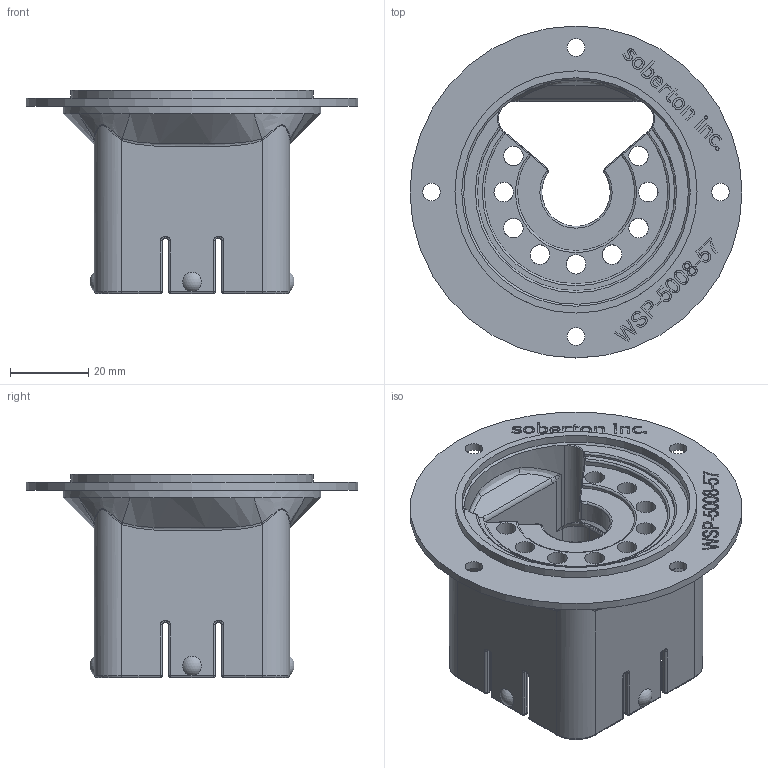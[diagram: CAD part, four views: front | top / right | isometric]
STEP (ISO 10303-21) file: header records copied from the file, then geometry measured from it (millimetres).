
FILE_DESCRIPTION(/* description */ (''),/* implementation_level */ '2;1');
FILE_NAME(/* name */ 'C:/Users/bodhe/OneDrive - Obvious Innovations LLC/Documents/Soberton Parts/Enclosure files/EC-001K.step',/* time_stamp */ '2021-04-26T18:05:08-05:00',/* author */ (''),/* organization */ (''),/* preprocessor_version */ 'ST-DEVELOPER v18.1',/* originating_system */ 'Autodesk Translation Framework v10.6.0.1341',/* authorisation */ '');
FILE_SCHEMA (('AUTOMOTIVE_DESIGN { 1 0 10303 214 3 1 1 }'));
Length unit declared in the file: millimetre
Products named in the file (1): EC-001K
Bounding box: 85 x 85 x 52 mm (x, y, z)
Volume: 47041.1 mm3; surface area: 28514.6 mm2
Topology: 1 solids, 3 shells, 799 faces, 2107 edges, 1318 vertices
Faces by surface type: bspline 374, plane 190, cylinder 152, torus 46, sphere 36, cone 1
Full cylindrical faces by diameter (mm): 0.649 x1, 1.055 x1, 4.5 x4, 5 x9, 58.5 x1, 62 x1, 66 x1, 85 x1
Entity records: 37721 total; most frequent: CARTESIAN_POINT 20492, ORIENTED_EDGE 4146, DIRECTION 2525, EDGE_CURVE 2073, VERTEX_POINT 1318, LINE 925, VECTOR 925, EDGE_LOOP 865
